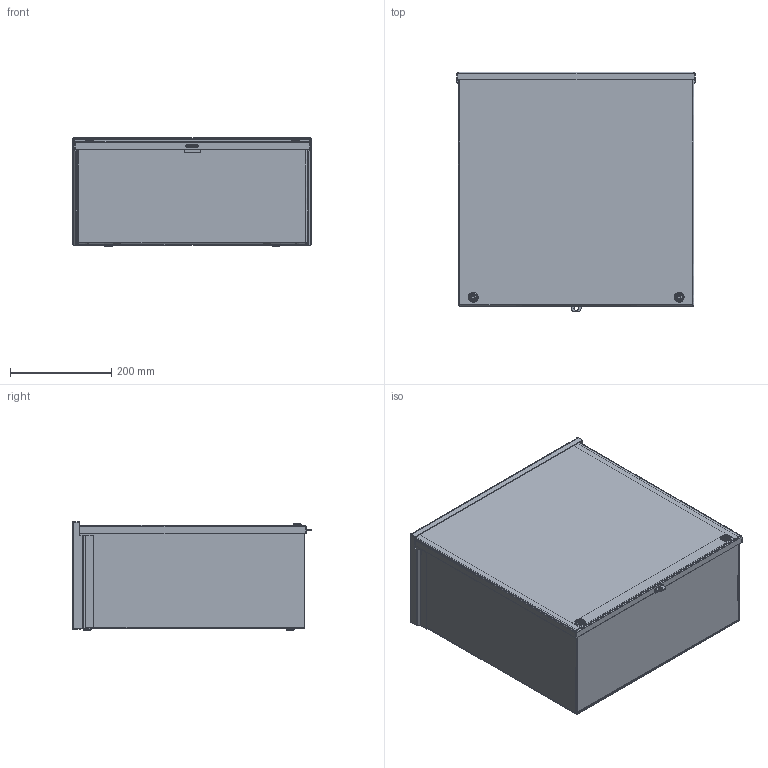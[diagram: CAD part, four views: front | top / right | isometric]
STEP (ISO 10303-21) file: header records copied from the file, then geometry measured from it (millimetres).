
FILE_DESCRIPTION((''),'2;1');
FILE_NAME('D:\scratch\ideas\a18r188nk.stp','2007-01-22T10:34:24',( 'User'),('SDRC'),'I-DEAS Master Series 9','UNIX','Yes');
FILE_SCHEMA(('AUTOMOTIVE_DESIGN { 1 0 10303 214 0 1 1 1 }'));
Length unit declared in the file: inch
Products named in the file (7): 13516; 3rsc_wmt_body_18x18x8; 3rsc_top_18x8; 3rsc_bottom_18x8_nk; 3rsc_body_18x18x8; 3rsc_cover_18x18; 78124001
Assembly tree (6 placements, depth 3):
  13516
    3rsc_wmt_body_18x18x8
      3rsc_top_18x8
      3rsc_bottom_18x8_nk
      3rsc_body_18x18x8
    3rsc_cover_18x18
    78124001
Bounding box: 469.9 x 473.15 x 214.63 mm (x, y, z)
Volume: 1222017.3 mm3; surface area: 1760705.1 mm2
Topology: 5 solids, 5 shells, 255 faces, 643 edges, 408 vertices
Faces by surface type: bspline 255
Entity records: 8154 total; most frequent: CARTESIAN_POINT 4019, ORIENTED_EDGE 1286, EDGE_CURVE 643, VERTEX_POINT 408, QUASI_UNIFORM_CURVE 312, EDGE_LOOP 293, FACE_OUTER_BOUND 255, ADVANCED_FACE 255
